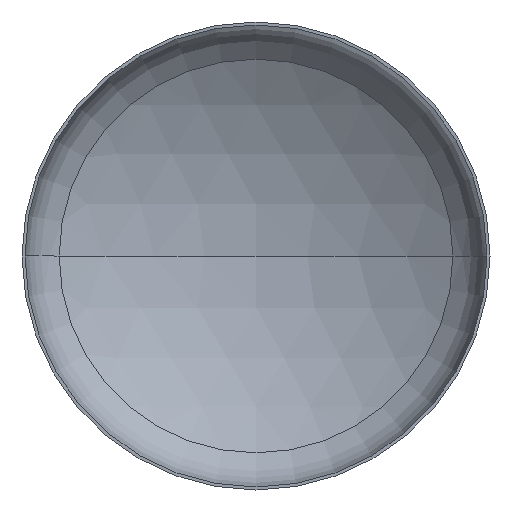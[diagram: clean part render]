
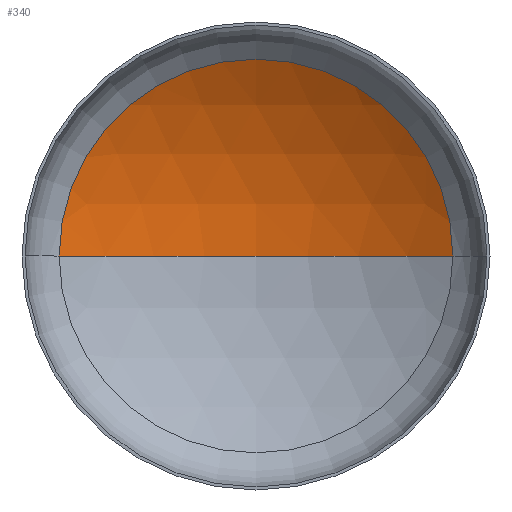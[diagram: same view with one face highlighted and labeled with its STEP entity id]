
A CAD part, front view. The second image highlights one B-rep face of the part: STEP entity #340.
In plain terms, the highlighted spherical face has radius 5200 mm.
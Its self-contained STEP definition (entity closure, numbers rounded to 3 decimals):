
#8 = DIRECTION ( 'NONE',  ( 1., 0., 0. ) ) ;
#11 = DIRECTION ( 'NONE',  ( 0., 0., 1. ) ) ;
#41 = EDGE_CURVE ( 'NONE', #63, #131, #343, .T. ) ;
#42 = EDGE_CURVE ( 'NONE', #122, #63, #349, .T. ) ;
#50 = EDGE_CURVE ( 'NONE', #122, #131, #207, .T. ) ;
#54 = CARTESIAN_POINT ( 'NONE',  ( 0., -3442.777, 0. ) ) ;
#63 = VERTEX_POINT ( 'NONE', #81 ) ;
#81 = CARTESIAN_POINT ( 'NONE',  ( 2733.714, 980.661, 0. ) ) ;
#85 = ORIENTED_EDGE ( 'NONE', *, *, #41, .T. ) ;
#95 = ORIENTED_EDGE ( 'NONE', *, *, #42, .T. ) ;
#98 = DIRECTION ( 'NONE',  ( -1., 0., 0. ) ) ;
#112 = EDGE_LOOP ( 'NONE', ( #215, #95, #85 ) ) ;
#122 = VERTEX_POINT ( 'NONE', #135 ) ;
#127 = CARTESIAN_POINT ( 'NONE',  ( -2733.714, 980.661, 0. ) ) ;
#131 = VERTEX_POINT ( 'NONE', #127 ) ;
#135 = CARTESIAN_POINT ( 'NONE',  ( 0., 1757.223, 0. ) ) ;
#170 = SPHERICAL_SURFACE ( 'NONE', #274, 5200. ) ;
#174 = CARTESIAN_POINT ( 'NONE',  ( 0., -3442.777, 0. ) ) ;
#176 = DIRECTION ( 'NONE',  ( 0., 0., -1. ) ) ;
#194 = DIRECTION ( 'NONE',  ( 1., 0., 0. ) ) ;
#197 = DIRECTION ( 'NONE',  ( 0., -1., 0. ) ) ;
#207 = CIRCLE ( 'NONE', #321, 5200. ) ;
#210 = CARTESIAN_POINT ( 'NONE',  ( 0., 980.661, 0. ) ) ;
#215 = ORIENTED_EDGE ( 'NONE', *, *, #50, .F. ) ;
#268 = AXIS2_PLACEMENT_3D ( 'NONE', #174, #176, #356 ) ;
#274 = AXIS2_PLACEMENT_3D ( 'NONE', #54, #304, #98 ) ;
#285 = AXIS2_PLACEMENT_3D ( 'NONE', #210, #197, #194 ) ;
#293 = FACE_OUTER_BOUND ( 'NONE', #112, .T. ) ;
#304 = DIRECTION ( 'NONE',  ( 0., 0., -1. ) ) ;
#308 = CARTESIAN_POINT ( 'NONE',  ( 0., -3442.777, 0. ) ) ;
#321 = AXIS2_PLACEMENT_3D ( 'NONE', #308, #11, #8 ) ;
#340 = ADVANCED_FACE ( 'NONE', ( #293 ), #170, .F. ) ;
#343 = CIRCLE ( 'NONE', #285, 2733.714 ) ;
#349 = CIRCLE ( 'NONE', #268, 5200. ) ;
#356 = DIRECTION ( 'NONE',  ( -1., 0., 0. ) ) ;
